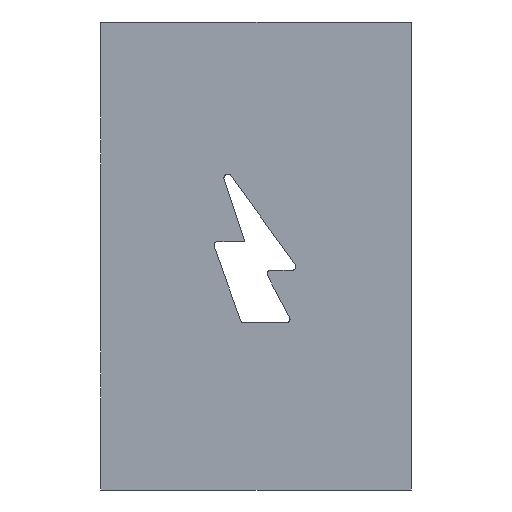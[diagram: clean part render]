
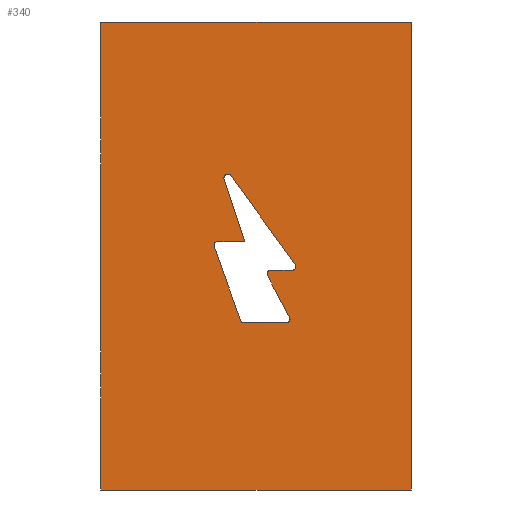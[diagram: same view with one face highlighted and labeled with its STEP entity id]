
A CAD part, left-side view. The second image highlights one B-rep face of the part: STEP entity #340.
In plain terms, the highlighted planar face has unit normal (-1, 0, 0).
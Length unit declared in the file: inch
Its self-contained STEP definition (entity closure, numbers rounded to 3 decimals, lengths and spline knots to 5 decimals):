
#6 = CARTESIAN_POINT ( 'NONE',  ( -32.81156, 25.42501, -1.44263 ) ) ;
#11 = AXIS2_PLACEMENT_3D ( 'NONE', #1038, #1535, #1541 ) ;
#27 = AXIS2_PLACEMENT_3D ( 'NONE', #1091, #1106, #109 ) ;
#32 = EDGE_CURVE ( 'NONE', #1168, #1187, #530, .T. ) ;
#39 = VERTEX_POINT ( 'NONE', #1405 ) ;
#48 = CARTESIAN_POINT ( 'NONE',  ( -32.81156, 25.15223, -1.9753 ) ) ;
#49 = DIRECTION ( 'NONE',  ( 0., -0.473, -0.881 ) ) ;
#75 = CARTESIAN_POINT ( 'NONE',  ( -32.81156, 25.27523, -1.66819 ) ) ;
#84 = VECTOR ( 'NONE', #195, 39.37008 ) ;
#88 = CARTESIAN_POINT ( 'NONE',  ( -32.81156, 17.18492, -12.48067 ) ) ;
#97 = VECTOR ( 'NONE', #1135, 39.37008 ) ;
#108 = PLANE ( 'NONE',  #914 ) ;
#109 = DIRECTION ( 'NONE',  ( 0., 0., 1. ) ) ;
#112 = VERTEX_POINT ( 'NONE', #1390 ) ;
#129 = LINE ( 'NONE', #757, #1154 ) ;
#132 = ORIENTED_EDGE ( 'NONE', *, *, #577, .T. ) ;
#140 = CARTESIAN_POINT ( 'NONE',  ( -32.81156, 26.37067, 0. ) ) ;
#180 = DIRECTION ( 'NONE',  ( 1., 0., 0. ) ) ;
#181 = DIRECTION ( 'NONE',  ( 0., 0., -1. ) ) ;
#189 = VERTEX_POINT ( 'NONE', #75 ) ;
#191 = VECTOR ( 'NONE', #1521, 39.37008 ) ;
#195 = DIRECTION ( 'NONE',  ( 0., -1., 0. ) ) ;
#217 = CIRCLE ( 'NONE', #11, 0.025 ) ;
#223 = CARTESIAN_POINT ( 'NONE',  ( -32.81156, 24.33045, 0. ) ) ;
#232 = CARTESIAN_POINT ( 'NONE',  ( -32.81156, 25.55978, -1.03218 ) ) ;
#236 = EDGE_CURVE ( 'NONE', #1168, #1080, #836, .T. ) ;
#248 = DIRECTION ( 'NONE',  ( 0., 0., 1. ) ) ;
#264 = LINE ( 'NONE', #754, #97 ) ;
#281 = LINE ( 'NONE', #1530, #191 ) ;
#297 = EDGE_LOOP ( 'NONE', ( #1270, #1074, #667, #1093 ) ) ;
#305 = LINE ( 'NONE', #1276, #1314 ) ;
#312 = VECTOR ( 'NONE', #1131, 39.37008 ) ;
#313 = CIRCLE ( 'NONE', #842, 0.025 ) ;
#319 = EDGE_CURVE ( 'NONE', #956, #923, #971, .T. ) ;
#340 = ADVANCED_FACE ( 'NONE', ( #463, #1310 ), #108, .T. ) ;
#356 = CARTESIAN_POINT ( 'NONE',  ( -32.81156, 26.37067, -3.074 ) ) ;
#358 = DIRECTION ( 'NONE',  ( 1., 0., 0. ) ) ;
#359 = CARTESIAN_POINT ( 'NONE',  ( -32.81156, 48.4609, 0. ) ) ;
#406 = DIRECTION ( 'NONE',  ( 0., 0., 1. ) ) ;
#409 = CARTESIAN_POINT ( 'NONE',  ( -32.81156, 0., -1.63137 ) ) ;
#416 = LINE ( 'NONE', #409, #612 ) ;
#421 = CARTESIAN_POINT ( 'NONE',  ( -32.81156, 25.42838, -1.9503 ) ) ;
#425 = AXIS2_PLACEMENT_3D ( 'NONE', #1491, #889, #406 ) ;
#446 = ORIENTED_EDGE ( 'NONE', *, *, #803, .T. ) ;
#447 = VECTOR ( 'NONE', #1068, 39.37008 ) ;
#463 = FACE_BOUND ( 'NONE', #693, .T. ) ;
#468 = CARTESIAN_POINT ( 'NONE',  ( -32.81156, 25.60131, -1.44263 ) ) ;
#471 = CARTESIAN_POINT ( 'NONE',  ( -32.81156, 26.37067, 0. ) ) ;
#472 = CIRCLE ( 'NONE', #425, 0.025 ) ;
#476 = ORIENTED_EDGE ( 'NONE', *, *, #652, .T. ) ;
#491 = ORIENTED_EDGE ( 'NONE', *, *, #552, .T. ) ;
#518 = CIRCLE ( 'NONE', #27, 0.025 ) ;
#522 = CARTESIAN_POINT ( 'NONE',  ( -32.81156, 25.42838, -1.9753 ) ) ;
#523 = VERTEX_POINT ( 'NONE', #6 ) ;
#530 = LINE ( 'NONE', #797, #958 ) ;
#533 = VECTOR ( 'NONE', #589, 39.37008 ) ;
#542 = CARTESIAN_POINT ( 'NONE',  ( -32.81156, 25.62484, -1.47606 ) ) ;
#544 = CARTESIAN_POINT ( 'NONE',  ( -32.81156, 25.11336, -1.60637 ) ) ;
#552 = EDGE_CURVE ( 'NONE', #975, #956, #472, .T. ) ;
#569 = VERTEX_POINT ( 'NONE', #522 ) ;
#572 = CARTESIAN_POINT ( 'NONE',  ( -32.81156, 25.09313, -1.59168 ) ) ;
#577 = EDGE_CURVE ( 'NONE', #1334, #1324, #281, .T. ) ;
#578 = EDGE_CURVE ( 'NONE', #569, #1334, #989, .T. ) ;
#580 = ORIENTED_EDGE ( 'NONE', *, *, #651, .T. ) ;
#589 = DIRECTION ( 'NONE',  ( 0., -0.588, -0.809 ) ) ;
#612 = VECTOR ( 'NONE', #1379, 39.37008 ) ;
#631 = EDGE_CURVE ( 'NONE', #1527, #975, #217, .T. ) ;
#648 = ORIENTED_EDGE ( 'NONE', *, *, #631, .T. ) ;
#651 = EDGE_CURVE ( 'NONE', #189, #39, #305, .T. ) ;
#652 = EDGE_CURVE ( 'NONE', #923, #1500, #313, .T. ) ;
#665 = CARTESIAN_POINT ( 'NONE',  ( -32.81156, 25.5158, -1.00969 ) ) ;
#667 = ORIENTED_EDGE ( 'NONE', *, *, #1064, .T. ) ;
#684 = DIRECTION ( 'NONE',  ( 1., 0., 0. ) ) ;
#693 = EDGE_LOOP ( 'NONE', ( #1065, #580, #446, #1409, #1359, #132, #1221, #900, #1271, #648, #491, #1495, #476, #1466 ) ) ;
#722 = CARTESIAN_POINT ( 'NONE',  ( -32.81156, 0., -1.9753 ) ) ;
#729 = LINE ( 'NONE', #722, #1200 ) ;
#735 = EDGE_CURVE ( 'NONE', #834, #523, #264, .T. ) ;
#742 = AXIS2_PLACEMENT_3D ( 'NONE', #968, #1268, #1140 ) ;
#754 = CARTESIAN_POINT ( 'NONE',  ( -32.81156, 0., -1.44263 ) ) ;
#757 = CARTESIAN_POINT ( 'NONE',  ( -32.81156, 23.3781, -7.67639 ) ) ;
#797 = CARTESIAN_POINT ( 'NONE',  ( -32.81156, 24.33045, 0.25 ) ) ;
#803 = EDGE_CURVE ( 'NONE', #39, #1470, #916, .T. ) ;
#806 = AXIS2_PLACEMENT_3D ( 'NONE', #1464, #358, #1435 ) ;
#834 = VERTEX_POINT ( 'NONE', #468 ) ;
#836 = LINE ( 'NONE', #359, #447 ) ;
#842 = AXIS2_PLACEMENT_3D ( 'NONE', #544, #180, #1032 ) ;
#889 = DIRECTION ( 'NONE',  ( 1., 0., 0. ) ) ;
#900 = ORIENTED_EDGE ( 'NONE', *, *, #735, .T. ) ;
#902 = CIRCLE ( 'NONE', #742, 0.025 ) ;
#914 = AXIS2_PLACEMENT_3D ( 'NONE', #952, #1570, #248 ) ;
#915 = AXIS2_PLACEMENT_3D ( 'NONE', #421, #684, #1050 ) ;
#916 = CIRCLE ( 'NONE', #806, 0.025 ) ;
#923 = VERTEX_POINT ( 'NONE', #572 ) ;
#928 = CARTESIAN_POINT ( 'NONE',  ( -32.81156, 48.4609, -3.074 ) ) ;
#952 = CARTESIAN_POINT ( 'NONE',  ( -32.81156, 48.4609, 0. ) ) ;
#956 = VERTEX_POINT ( 'NONE', #665 ) ;
#958 = VECTOR ( 'NONE', #181, 39.37008 ) ;
#968 = CARTESIAN_POINT ( 'NONE',  ( -32.81156, 25.2532, -1.65637 ) ) ;
#971 = LINE ( 'NONE', #88, #533 ) ;
#975 = VERTEX_POINT ( 'NONE', #1153 ) ;
#989 = CIRCLE ( 'NONE', #915, 0.025 ) ;
#1032 = DIRECTION ( 'NONE',  ( 0., 0., 1. ) ) ;
#1038 = CARTESIAN_POINT ( 'NONE',  ( -32.81156, 25.53603, -1.02438 ) ) ;
#1046 = LINE ( 'NONE', #928, #84 ) ;
#1050 = DIRECTION ( 'NONE',  ( 0., 0., 1. ) ) ;
#1064 = EDGE_CURVE ( 'NONE', #1451, #1187, #1046, .T. ) ;
#1065 = ORIENTED_EDGE ( 'NONE', *, *, #1364, .F. ) ;
#1068 = DIRECTION ( 'NONE',  ( 0., 1., 0. ) ) ;
#1074 = ORIENTED_EDGE ( 'NONE', *, *, #1449, .T. ) ;
#1080 = VERTEX_POINT ( 'NONE', #471 ) ;
#1083 = CARTESIAN_POINT ( 'NONE',  ( -32.81156, 25.45192, -1.95873 ) ) ;
#1091 = CARTESIAN_POINT ( 'NONE',  ( -32.81156, 25.60131, -1.46763 ) ) ;
#1093 = ORIENTED_EDGE ( 'NONE', *, *, #32, .F. ) ;
#1098 = DIRECTION ( 'NONE',  ( 0., 1., 0. ) ) ;
#1106 = DIRECTION ( 'NONE',  ( 1., 0., 0. ) ) ;
#1131 = DIRECTION ( 'NONE',  ( 0., 0., -1. ) ) ;
#1135 = DIRECTION ( 'NONE',  ( 0., -1., 0. ) ) ;
#1140 = DIRECTION ( 'NONE',  ( 0., 0., 1. ) ) ;
#1153 = CARTESIAN_POINT ( 'NONE',  ( -32.81156, 25.53603, -0.99938 ) ) ;
#1154 = VECTOR ( 'NONE', #1489, 39.37008 ) ;
#1168 = VERTEX_POINT ( 'NONE', #223 ) ;
#1187 = VERTEX_POINT ( 'NONE', #1584 ) ;
#1200 = VECTOR ( 'NONE', #1098, 39.37008 ) ;
#1221 = ORIENTED_EDGE ( 'NONE', *, *, #1525, .T. ) ;
#1254 = EDGE_CURVE ( 'NONE', #523, #1527, #129, .T. ) ;
#1268 = DIRECTION ( 'NONE',  ( 1., 0., 0. ) ) ;
#1270 = ORIENTED_EDGE ( 'NONE', *, *, #236, .T. ) ;
#1271 = ORIENTED_EDGE ( 'NONE', *, *, #1254, .T. ) ;
#1276 = CARTESIAN_POINT ( 'NONE',  ( -32.81156, 20.3198, -10.90331 ) ) ;
#1310 = FACE_OUTER_BOUND ( 'NONE', #297, .T. ) ;
#1314 = VECTOR ( 'NONE', #49, 39.37008 ) ;
#1324 = VERTEX_POINT ( 'NONE', #542 ) ;
#1334 = VERTEX_POINT ( 'NONE', #1083 ) ;
#1359 = ORIENTED_EDGE ( 'NONE', *, *, #578, .T. ) ;
#1364 = EDGE_CURVE ( 'NONE', #189, #112, #902, .T. ) ;
#1368 = LINE ( 'NONE', #140, #312 ) ;
#1379 = DIRECTION ( 'NONE',  ( 0., 1., 0. ) ) ;
#1390 = CARTESIAN_POINT ( 'NONE',  ( -32.81156, 25.2532, -1.63137 ) ) ;
#1405 = CARTESIAN_POINT ( 'NONE',  ( -32.81156, 25.1302, -1.93848 ) ) ;
#1409 = ORIENTED_EDGE ( 'NONE', *, *, #1509, .T. ) ;
#1410 = EDGE_CURVE ( 'NONE', #1500, #112, #416, .T. ) ;
#1435 = DIRECTION ( 'NONE',  ( 0., 0., 1. ) ) ;
#1449 = EDGE_CURVE ( 'NONE', #1080, #1451, #1368, .T. ) ;
#1451 = VERTEX_POINT ( 'NONE', #356 ) ;
#1464 = CARTESIAN_POINT ( 'NONE',  ( -32.81156, 25.15223, -1.9503 ) ) ;
#1466 = ORIENTED_EDGE ( 'NONE', *, *, #1410, .T. ) ;
#1470 = VERTEX_POINT ( 'NONE', #48 ) ;
#1489 = DIRECTION ( 'NONE',  ( 0., 0.312, 0.95 ) ) ;
#1491 = CARTESIAN_POINT ( 'NONE',  ( -32.81156, 25.53603, -1.02438 ) ) ;
#1495 = ORIENTED_EDGE ( 'NONE', *, *, #319, .T. ) ;
#1500 = VERTEX_POINT ( 'NONE', #1563 ) ;
#1509 = EDGE_CURVE ( 'NONE', #1470, #569, #729, .T. ) ;
#1521 = DIRECTION ( 'NONE',  ( 0., 0.337, 0.941 ) ) ;
#1525 = EDGE_CURVE ( 'NONE', #1324, #834, #518, .T. ) ;
#1527 = VERTEX_POINT ( 'NONE', #232 ) ;
#1530 = CARTESIAN_POINT ( 'NONE',  ( -32.81156, 23.17856, -8.30413 ) ) ;
#1535 = DIRECTION ( 'NONE',  ( 1., 0., 0. ) ) ;
#1541 = DIRECTION ( 'NONE',  ( 0., 0., 1. ) ) ;
#1563 = CARTESIAN_POINT ( 'NONE',  ( -32.81156, 25.11336, -1.63137 ) ) ;
#1570 = DIRECTION ( 'NONE',  ( -1., 0., 0. ) ) ;
#1584 = CARTESIAN_POINT ( 'NONE',  ( -32.81156, 24.33045, -3.074 ) ) ;
